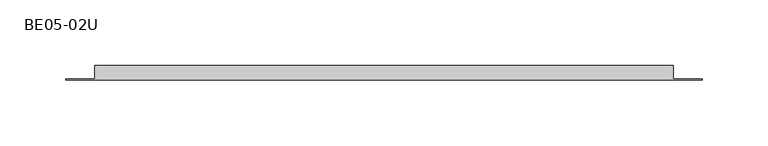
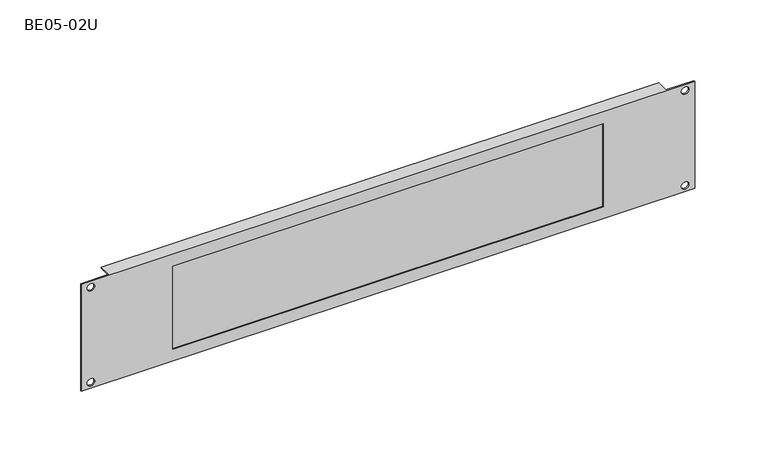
"""IFC4 building model written with IfcOpenShell, lengths in millimetres: proxy geometry, Щеточный ввод : BE05-02U."""

from ifc_helpers import new_model, si_unit, frame, origin, place, context, project, spatial, polyline, circle_curve, outline, extrude, source, transform, mapped, element, save
from ifc_brep_helpers import plane_surface, revolved_surface, advanced_brep


def be05_02u_7d84ed24(model_context):
    return source(origin(), model_context, "Body", "SolidModel", [
        extrude(outline(polyline([(169.25, 3.9727258), (169.25, 0.0), (-169.25, 0.0), (-169.25, 3.9727258), (169.25, 3.9727258)])), frame((0.0, 0.0, 1.0), z_axis=(0.0, 0.0, 1.0), x_axis=(1.0, 0.0, 0.0)), (0.0, 0.0, 1.0), 78.0),
        advanced_brep(
        [(-241.25, 0.0, 89.0), (-241.25, -1.0, 89.0), (241.25, -1.0, 89.0), (241.25, 0.0, 89.0), (219.25, 0.0, 89.0), (219.25, 10.0, 89.0), (-219.25, 10.0, 89.0), (-219.25, 0.0, 89.0), (241.25, 0.0, 0.0), (241.25, -1.0, 0.0), (-241.25, -1.0, 0.0), (-241.25, 0.0, 0.0), (-219.25, 0.0, 0.0), (-219.25, 10.0, 0.0), (219.25, 10.0, 0.0), (219.25, 0.0, 0.0), (219.25, 0.0, 1.0), (-219.25, 0.0, 1.0), (-219.25, 0.0, 88.0), (219.25, 0.0, 88.0), (-230.8081342, 0.0, 84.0), (-236.7427021, 0.0, 84.0), (-230.8081342, 0.0, 5.0), (-236.7427021, 0.0, 5.0), (236.7427021, 0.0, 84.0), (230.8081342, 0.0, 84.0), (236.7427021, 0.0, 5.0), (230.8081342, 0.0, 5.0), (169.25, 0.0, 10.0), (169.25, 0.0, 79.0), (-169.25, 0.0, 79.0), (-169.25, 0.0, 10.0), (-236.7427021, -1.0, 84.0), (-230.8081342, -1.0, 84.0), (-236.7427021, -1.0, 5.0), (-230.8081342, -1.0, 5.0), (230.8081342, -1.0, 84.0), (236.7427021, -1.0, 84.0), (230.8081342, -1.0, 5.0), (236.7427021, -1.0, 5.0), (169.25, -1.0, 79.0), (169.25, -1.0, 10.0), (-169.25, -1.0, 10.0), (-169.25, -1.0, 79.0), (219.25, 10.0, 88.0), (219.25, 10.0, 8.0), (219.25, 9.0, 8.0), (219.25, 9.0, 1.0), (-219.25, 10.0, 88.0), (-219.25, 9.0, 1.0), (-219.25, 9.0, 8.0), (-219.25, 10.0, 8.0)],
        [
            (0, 1),
            (1, 2),
            (2, 3),
            (3, 4),
            (4, 5),
            (5, 6),
            (6, 7),
            (7, 0),
            (8, 9),
            (9, 10),
            (10, 11),
            (11, 12),
            (12, 13),
            (13, 14),
            (14, 15),
            (15, 8),
            (3, 8),
            (15, 16),
            (16, 17),
            (17, 12),
            (11, 0),
            (7, 18),
            (18, 19),
            (19, 4),
            (20, 21, circle_curve(frame((-233.7754182, 0.0, 84.0), z_axis=(0.0, -1.0, 0.0), x_axis=(-1.0, 0.0, 0.0)), 2.967284)),
            (21, 20, circle_curve(frame((-233.7754182, 0.0, 84.0), z_axis=(0.0, -1.0, 0.0), x_axis=(-1.0, 0.0, 0.0)), 2.967284)),
            (22, 23, circle_curve(frame((-233.7754182, 0.0, 5.0), z_axis=(0.0, -1.0, 0.0), x_axis=(-1.0, 0.0, 0.0)), 2.967284)),
            (23, 22, circle_curve(frame((-233.7754182, 0.0, 5.0), z_axis=(0.0, -1.0, 0.0), x_axis=(-1.0, 0.0, 0.0)), 2.967284)),
            (24, 25, circle_curve(frame((233.7754182, 0.0, 84.0), z_axis=(0.0, -1.0, 0.0), x_axis=(-1.0, 0.0, 0.0)), 2.967284)),
            (25, 24, circle_curve(frame((233.7754182, 0.0, 84.0), z_axis=(0.0, -1.0, 0.0), x_axis=(-1.0, 0.0, 0.0)), 2.967284)),
            (26, 27, circle_curve(frame((233.7754182, 0.0, 5.0), z_axis=(0.0, -1.0, 0.0), x_axis=(-1.0, 0.0, 0.0)), 2.967284)),
            (27, 26, circle_curve(frame((233.7754182, 0.0, 5.0), z_axis=(0.0, -1.0, 0.0), x_axis=(-1.0, 0.0, 0.0)), 2.967284)),
            (28, 29),
            (29, 30),
            (30, 31),
            (31, 28),
            (10, 1),
            (9, 2),
            (32, 33, circle_curve(frame((-233.7754182, -1.0, 84.0), z_axis=(0.0, 1.0, 0.0), x_axis=(-1.0, 0.0, 0.0)), 2.967284)),
            (33, 32, circle_curve(frame((-233.7754182, -1.0, 84.0), z_axis=(0.0, 1.0, 0.0), x_axis=(-1.0, 0.0, 0.0)), 2.967284)),
            (34, 35, circle_curve(frame((-233.7754182, -1.0, 5.0), z_axis=(0.0, 1.0, 0.0), x_axis=(-1.0, 0.0, 0.0)), 2.967284)),
            (35, 34, circle_curve(frame((-233.7754182, -1.0, 5.0), z_axis=(0.0, 1.0, 0.0), x_axis=(-1.0, 0.0, 0.0)), 2.967284)),
            (36, 37, circle_curve(frame((233.7754182, -1.0, 84.0), z_axis=(0.0, 1.0, 0.0), x_axis=(-1.0, 0.0, 0.0)), 2.967284)),
            (37, 36, circle_curve(frame((233.7754182, -1.0, 84.0), z_axis=(0.0, 1.0, 0.0), x_axis=(-1.0, 0.0, 0.0)), 2.967284)),
            (38, 39, circle_curve(frame((233.7754182, -1.0, 5.0), z_axis=(0.0, 1.0, 0.0), x_axis=(-1.0, 0.0, 0.0)), 2.967284)),
            (39, 38, circle_curve(frame((233.7754182, -1.0, 5.0), z_axis=(0.0, 1.0, 0.0), x_axis=(-1.0, 0.0, 0.0)), 2.967284)),
            (40, 41),
            (41, 42),
            (42, 43),
            (43, 40),
            (32, 21),
            (20, 33),
            (34, 23),
            (22, 35),
            (36, 25),
            (24, 37),
            (38, 27),
            (26, 39),
            (19, 44),
            (44, 5),
            (14, 45),
            (45, 46),
            (46, 47),
            (47, 16),
            (6, 48),
            (48, 18),
            (17, 49),
            (49, 50),
            (50, 51),
            (51, 13),
            (48, 44),
            (47, 49),
            (51, 45),
            (50, 46),
            (28, 41),
            (40, 29),
            (31, 42),
            (30, 43),
        ],
        [
            plane_surface(frame((-241.25, 0.0, 89.0), z_axis=(0.0, 0.0, 1.0), x_axis=(-1.0, 0.0, 0.0))),
            plane_surface(frame((-241.25, 0.0, 0.0), z_axis=(0.0, 0.0, -1.0), x_axis=(1.0, 0.0, 0.0))),
            plane_surface(frame((241.25, 0.0, 89.0), z_axis=(0.0, 1.0, 0.0), x_axis=(0.0, 0.0, -1.0))),
            plane_surface(frame((-241.25, 0.0, 89.0), z_axis=(-1.0, 0.0, 0.0), x_axis=(0.0, 0.0, -1.0))),
            plane_surface(frame((-241.25, -1.0, 89.0), z_axis=(0.0, -1.0, 0.0), x_axis=(0.0, 0.0, -1.0))),
            plane_surface(frame((241.25, -1.0, 89.0), z_axis=(1.0, 0.0, 0.0), x_axis=(0.0, 0.0, -1.0))),
            revolved_surface(polyline([(-236.7427022, -1.0, 84.0), (-236.7427022, 0.0, 84.0)]), (-233.7754182, 0.0, 84.0), (0.0, -1.0, 0.0)),
            revolved_surface(polyline([(-236.7427022, -1.0, 5.0), (-236.7427022, 0.0, 5.0)]), (-233.7754182, -1.0, 5.0), (0.0, -1.0, 0.0)),
            revolved_surface(polyline([(230.80813419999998, -1.0, 84.0), (230.80813419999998, 0.0, 84.0)]), (233.7754182, -1.0, 84.0), (0.0, -1.0, 0.0)),
            revolved_surface(polyline([(230.80813419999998, -1.0, 5.0), (230.80813419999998, 0.0, 5.0)]), (233.7754182, -1.0, 5.0), (0.0, -1.0, 0.0)),
            plane_surface(frame((219.25, 0.0, 89.0), z_axis=(1.0, 0.0, 0.0), x_axis=(0.0, 0.0, -1.0))),
            plane_surface(frame((-219.25, 0.0, 89.0), z_axis=(-1.0, 0.0, 0.0), x_axis=(0.0, 0.0, 1.0))),
            plane_surface(frame((219.25, 0.0, 88.0), z_axis=(0.0, 0.0, -1.0), x_axis=(-1.0, 0.0, 0.0))),
            plane_surface(frame((219.25, 9.0, 1.0), z_axis=(0.0, 0.0, 1.0), x_axis=(-1.0, 0.0, 0.0))),
            plane_surface(frame((219.25, 10.0, 88.0), z_axis=(0.0, 1.0, 0.0), x_axis=(-1.0, 0.0, 0.0))),
            plane_surface(frame((219.25, 10.0, 0.0), z_axis=(0.0, 1.0, 0.0), x_axis=(-1.0, 0.0, 0.0))),
            plane_surface(frame((219.25, 10.0, 8.0), z_axis=(0.0, 0.0, 1.0), x_axis=(-1.0, 0.0, 0.0))),
            plane_surface(frame((219.25, 9.0, 8.0), z_axis=(0.0, -1.0, 0.0), x_axis=(-1.0, 0.0, 0.0))),
            plane_surface(frame((169.25, 0.0, 79.0), z_axis=(-1.0, 0.0, 0.0), x_axis=(0.0, -1.0, 0.0))),
            plane_surface(frame((169.25, 0.0, 10.0), z_axis=(0.0, 0.0, 1.0), x_axis=(0.0, -1.0, 0.0))),
            plane_surface(frame((-169.25, 0.0, 10.0), z_axis=(1.0, 0.0, 0.0), x_axis=(0.0, -1.0, 0.0))),
            plane_surface(frame((-169.25, 0.0, 79.0), z_axis=(0.0, 0.0, -1.0), x_axis=(0.0, -1.0, 0.0))),
        ],
        [
            (0, [[1, 2, 3, 4, 5, 6, 7, 8]]),
            (1, [[9, 10, 11, 12, 13, 14, 15, 16]]),
            (2, [[17, -16, 18, 19, 20, -12, 21, -8, 22, 23, 24, -4], [25, 26], [27, 28], [29, 30], [31, 32], [33, 34, 35, 36]]),
            (3, [[-1, -21, -11, 37]]),
            (4, [[-2, -37, -10, 38], [39, 40], [41, 42], [43, 44], [45, 46], [47, 48, 49, 50]]),
            (5, [[-3, -38, -9, -17]]),
            (6, [[51, -25, 52, -39]]),
            (6, [[-51, -40, -52, -26]]),
            (7, [[53, -27, 54, -41]]),
            (7, [[-53, -42, -54, -28]]),
            (8, [[55, -29, 56, -43]]),
            (8, [[-55, -44, -56, -30]]),
            (9, [[57, -31, 58, -45]]),
            (9, [[-57, -46, -58, -32]]),
            (10, [[59, 60, -5, -24]]),
            (10, [[61, 62, 63, 64, -18, -15]]),
            (11, [[-7, 65, 66, -22]]),
            (11, [[-13, -20, 67, 68, 69, 70]]),
            (12, [[-59, -23, -66, 71]]),
            (13, [[-64, 72, -67, -19]]),
            (14, [[-60, -71, -65, -6]]),
            (15, [[-61, -14, -70, 73]]),
            (16, [[-62, -73, -69, 74]]),
            (17, [[-63, -74, -68, -72]]),
            (18, [[75, -47, 76, -33]]),
            (19, [[-75, -36, 77, -48]]),
            (20, [[-77, -35, 78, -49]]),
            (21, [[-76, -50, -78, -34]]),
        ],
    ),
    ])


if __name__ == "__main__":
    model = new_model("IFC4")
    model_context = context("Model", 3, world=origin())
    ifc_project = project(units=[si_unit("LENGTHUNIT", "METRE", prefix="MILLI")], contexts=[model_context])
    site = spatial("IfcSite", under=ifc_project)
    building = spatial("IfcBuilding", under=site)
    placement = place(None, origin())
    be05_02u_shape = be05_02u_7d84ed24(model_context)
    element("IfcBuildingElementProxy", 1, Name="Щеточный ввод : BE05-02U", ObjectType="Щеточный ввод : BE05-02U", at=placement, inside=building, context=model_context, shape_type="MappedRepresentation", body=[
        mapped(be05_02u_shape, transform((0.0, 0.0, 0.0), x_axis=(1.0, 0.0, 0.0), y_axis=(0.0, 1.0, 0.0), z_axis=(0.0, 0.0, 1.0))),
    ])
    save(model, "model.ifc")
